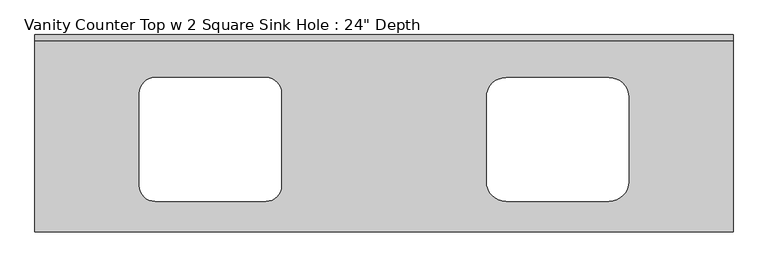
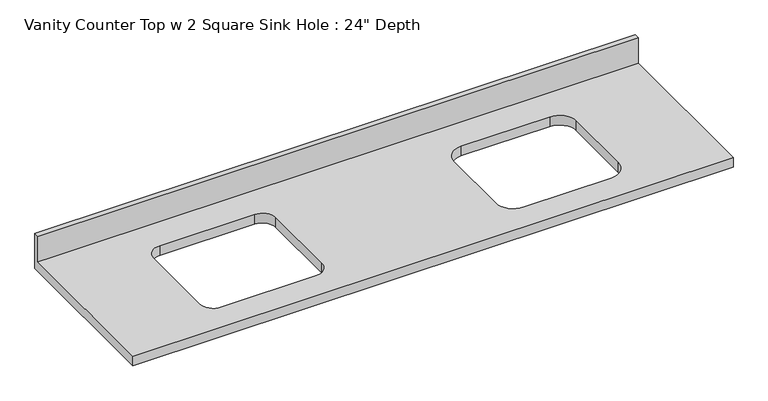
"""IFC4 building model written with IfcOpenShell, lengths in millimetres: furniture geometry."""

from ifc_helpers import new_model, si_unit, frame, origin, place, context, project, spatial, polyline, circle_curve, source, transform, mapped, element, save
from ifc_brep_helpers import plane_surface, revolved_surface, advanced_brep


def furniture_1ece5fb7(model_context):
    return source(origin(), model_context, "Body", "AdvancedBrep", [
        advanced_brep(
        [(-1268.7247951, -635.0, 787.4), (979.1752049, -635.0, 787.4), (979.1752049, -19.05, 787.4), (-1268.7247951, -19.05, 787.4), (-932.1747951, -188.4433832, 787.4), (-881.3747951, -137.6433832, 787.4), (-525.7747951, -137.6433832, 787.4), (-474.9747951, -188.4433832, 787.4), (-474.9747951, -486.4013937, 787.4), (-525.7747951, -537.2013937, 787.4), (-881.3747951, -537.2013937, 787.4), (-932.1747951, -486.4013937, 787.4), (248.9252049, -137.6433832, 787.4), (579.1252049, -137.6433832, 787.4), (642.6252049, -201.1433832, 787.4), (642.6252049, -473.7013937, 787.4), (579.1252049, -537.2013937, 787.4), (248.9252049, -537.2013937, 787.4), (185.4252049, -473.7013937, 787.4), (185.4252049, -201.1433832, 787.4), (979.1752049, 0.0, 749.3), (979.1752049, -635.0, 749.3), (-1268.7247951, -635.0, 749.3), (-1268.7247951, 0.0, 749.3), (-881.3747951, -137.6433832, 749.3), (-932.1747951, -188.4433832, 749.3), (-932.1747951, -486.4013937, 749.3), (-881.3747951, -537.2013937, 749.3), (-525.7747951, -537.2013937, 749.3), (-474.9747951, -486.4013937, 749.3), (-474.9747951, -188.4433832, 749.3), (-525.7747951, -137.6433832, 749.3), (579.1252049, -137.6433832, 749.3), (248.9252049, -137.6433832, 749.3), (185.4252049, -201.1433832, 749.3), (185.4252049, -473.7013937, 749.3), (248.9252049, -537.2013937, 749.3), (579.1252049, -537.2013937, 749.3), (642.6252049, -473.7013937, 749.3), (642.6252049, -201.1433832, 749.3), (-1268.7247951, 0.0, 889.0), (979.1752049, 0.0, 889.0), (-1268.7247951, -19.05, 889.0), (979.1752049, -19.05, 889.0)],
        [
            (0, 1),
            (1, 2),
            (2, 3),
            (3, 0),
            (4, 5, circle_curve(frame((-881.3747951, -188.4433832, 787.4), z_axis=(0.0, 0.0, -1.0), x_axis=(1.0, 0.0, 0.0)), 50.8)),
            (5, 6),
            (6, 7, circle_curve(frame((-525.7747951, -188.4433832, 787.4), z_axis=(0.0, 0.0, -1.0), x_axis=(1.0, 0.0, 0.0)), 50.8)),
            (7, 8),
            (8, 9, circle_curve(frame((-525.7747951, -486.4013937, 787.4), z_axis=(0.0, 0.0, -1.0), x_axis=(1.0, 0.0, 0.0)), 50.8)),
            (9, 10),
            (10, 11, circle_curve(frame((-881.3747951, -486.4013937, 787.4), z_axis=(0.0, 0.0, -1.0), x_axis=(1.0, 0.0, 0.0)), 50.8)),
            (11, 4),
            (12, 13),
            (13, 14, circle_curve(frame((579.1252049, -201.1433832, 787.4), z_axis=(0.0, 0.0, -1.0), x_axis=(1.0, 0.0, 0.0)), 63.5)),
            (14, 15),
            (15, 16, circle_curve(frame((579.1252049, -473.7013937, 787.4), z_axis=(0.0, 0.0, -1.0), x_axis=(1.0, 0.0, 0.0)), 63.5)),
            (16, 17),
            (17, 18, circle_curve(frame((248.9252049, -473.7013937, 787.4), z_axis=(0.0, 0.0, -1.0), x_axis=(1.0, 0.0, 0.0)), 63.5)),
            (18, 19),
            (19, 12, circle_curve(frame((248.9252049, -201.1433832, 787.4), z_axis=(0.0, 0.0, -1.0), x_axis=(1.0, 0.0, 0.0)), 63.5)),
            (20, 21),
            (21, 22),
            (22, 23),
            (23, 20),
            (24, 25, circle_curve(frame((-881.3747951, -188.4433832, 749.3), z_axis=(0.0, 0.0, 1.0), x_axis=(1.0, 0.0, 0.0)), 50.8)),
            (25, 26),
            (26, 27, circle_curve(frame((-881.3747951, -486.4013937, 749.3), z_axis=(0.0, 0.0, 1.0), x_axis=(1.0, 0.0, 0.0)), 50.8)),
            (27, 28),
            (28, 29, circle_curve(frame((-525.7747951, -486.4013937, 749.3), z_axis=(0.0, 0.0, 1.0), x_axis=(1.0, 0.0, 0.0)), 50.8)),
            (29, 30),
            (30, 31, circle_curve(frame((-525.7747951, -188.4433832, 749.3), z_axis=(0.0, 0.0, 1.0), x_axis=(1.0, 0.0, 0.0)), 50.8)),
            (31, 24),
            (32, 33),
            (33, 34, circle_curve(frame((248.9252049, -201.1433832, 749.3), z_axis=(0.0, 0.0, 1.0), x_axis=(1.0, 0.0, 0.0)), 63.5)),
            (34, 35),
            (35, 36, circle_curve(frame((248.9252049, -473.7013937, 749.3), z_axis=(0.0, 0.0, 1.0), x_axis=(1.0, 0.0, 0.0)), 63.5)),
            (36, 37),
            (37, 38, circle_curve(frame((579.1252049, -473.7013937, 749.3), z_axis=(0.0, 0.0, 1.0), x_axis=(1.0, 0.0, 0.0)), 63.5)),
            (38, 39),
            (39, 32, circle_curve(frame((579.1252049, -201.1433832, 749.3), z_axis=(0.0, 0.0, 1.0), x_axis=(1.0, 0.0, 0.0)), 63.5)),
            (23, 40),
            (40, 41),
            (41, 20),
            (22, 0),
            (3, 42),
            (42, 40),
            (21, 1),
            (41, 43),
            (43, 2),
            (42, 43),
            (4, 25),
            (24, 5),
            (11, 26),
            (10, 27),
            (9, 28),
            (8, 29),
            (7, 30),
            (6, 31),
            (12, 33),
            (32, 13),
            (19, 34),
            (18, 35),
            (17, 36),
            (16, 37),
            (15, 38),
            (14, 39),
        ],
        [
            plane_surface(frame((-1268.7247951, 0.0, 787.4), z_axis=(0.0, 0.0, 1.0), x_axis=(-1.0, 0.0, 0.0))),
            plane_surface(frame((-1268.7247951, 0.0, 749.3), z_axis=(0.0, 0.0, -1.0), x_axis=(1.0, 0.0, 0.0))),
            plane_surface(frame((979.1752049, 0.0, 787.4), z_axis=(0.0, 1.0, 0.0), x_axis=(0.0, 0.0, -1.0))),
            plane_surface(frame((-1268.7247951, 0.0, 787.4), z_axis=(-1.0, 0.0, 0.0), x_axis=(0.0, 0.0, -1.0))),
            plane_surface(frame((-1268.7247951, -635.0, 787.4), z_axis=(0.0, -1.0, 0.0), x_axis=(0.0, 0.0, -1.0))),
            plane_surface(frame((979.1752049, -635.0, 787.4), z_axis=(1.0, 0.0, 0.0), x_axis=(0.0, 0.0, -1.0))),
            plane_surface(frame((-1268.7247951, 0.0, 889.0), z_axis=(0.0, 0.0, 1.0), x_axis=(0.0, -1.0, 0.0))),
            plane_surface(frame((-1268.7247951, -19.05, 889.0), z_axis=(0.0, -1.0, 0.0), x_axis=(0.0, 0.0, -1.0))),
            revolved_surface(polyline([(-830.5747951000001, -188.4433832, 787.4), (-830.5747951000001, -188.4433832, 749.3)]), (-881.3747951, -188.4433832, 749.3), (0.0, 0.0, 1.0)),
            plane_surface(frame((-932.1747951, -188.4433832, 787.4), z_axis=(1.0, 0.0, 0.0), x_axis=(0.0, 0.0, -1.0))),
            revolved_surface(polyline([(-830.5747951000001, -486.4013937, 787.4), (-830.5747951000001, -486.4013937, 749.3)]), (-881.3747951, -486.4013937, 749.3), (0.0, 0.0, 1.0)),
            plane_surface(frame((-881.3747951, -537.2013937, 787.4), z_axis=(0.0, 1.0, 0.0), x_axis=(0.0, 0.0, -1.0))),
            revolved_surface(polyline([(-474.9747951, -486.4013937, 787.4), (-474.9747951, -486.4013937, 749.3)]), (-525.7747951, -486.4013937, 749.3), (0.0, 0.0, 1.0)),
            plane_surface(frame((-474.9747951, -486.4013937, 787.4), z_axis=(-1.0, 0.0, 0.0), x_axis=(0.0, 0.0, -1.0))),
            revolved_surface(polyline([(-474.9747951, -188.4433832, 787.4), (-474.9747951, -188.4433832, 749.3)]), (-525.7747951, -188.4433832, 749.3), (0.0, 0.0, 1.0)),
            plane_surface(frame((-525.7747951, -137.6433832, 787.4), z_axis=(0.0, -1.0, 0.0), x_axis=(0.0, 0.0, -1.0))),
            plane_surface(frame((579.1252049, -137.6433832, 787.4), z_axis=(0.0, -1.0, 0.0), x_axis=(0.0, 0.0, -1.0))),
            revolved_surface(polyline([(312.42520490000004, -201.1433832, 787.4), (312.42520490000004, -201.1433832, 749.3)]), (248.9252049, -201.1433832, 749.3), (0.0, 0.0, 1.0)),
            plane_surface(frame((185.4252049, -201.1433832, 787.4), z_axis=(1.0, 0.0, 0.0), x_axis=(0.0, 0.0, -1.0))),
            revolved_surface(polyline([(312.42520490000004, -473.7013937, 787.4), (312.42520490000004, -473.7013937, 749.3)]), (248.9252049, -473.7013937, 749.3), (0.0, 0.0, 1.0)),
            plane_surface(frame((248.9252049, -537.2013937, 787.4), z_axis=(0.0, 1.0, 0.0), x_axis=(0.0, 0.0, -1.0))),
            revolved_surface(polyline([(642.6252049, -473.7013937, 787.4), (642.6252049, -473.7013937, 749.3)]), (579.1252049, -473.7013937, 749.3), (0.0, 0.0, 1.0)),
            plane_surface(frame((642.6252049, -473.7013937, 787.4), z_axis=(-1.0, 0.0, 0.0), x_axis=(0.0, 0.0, -1.0))),
            revolved_surface(polyline([(642.6252049, -201.1433832, 787.4), (642.6252049, -201.1433832, 749.3)]), (579.1252049, -201.1433832, 749.3), (0.0, 0.0, 1.0)),
        ],
        [
            (0, [[1, 2, 3, 4], [5, 6, 7, 8, 9, 10, 11, 12], [13, 14, 15, 16, 17, 18, 19, 20]]),
            (1, [[21, 22, 23, 24], [25, 26, 27, 28, 29, 30, 31, 32], [33, 34, 35, 36, 37, 38, 39, 40]]),
            (2, [[-24, 41, 42, 43]]),
            (3, [[-23, 44, -4, 45, 46, -41]]),
            (4, [[-1, -44, -22, 47]]),
            (5, [[-21, -43, 48, 49, -2, -47]]),
            (6, [[-46, 50, -48, -42]]),
            (7, [[-50, -45, -3, -49]]),
            (8, [[51, -25, 52, -5]]),
            (9, [[-51, -12, 53, -26]]),
            (10, [[-53, -11, 54, -27]]),
            (11, [[-54, -10, 55, -28]]),
            (12, [[-55, -9, 56, -29]]),
            (13, [[-56, -8, 57, -30]]),
            (14, [[-57, -7, 58, -31]]),
            (15, [[-52, -32, -58, -6]]),
            (16, [[59, -33, 60, -13]]),
            (17, [[-59, -20, 61, -34]]),
            (18, [[-61, -19, 62, -35]]),
            (19, [[-62, -18, 63, -36]]),
            (20, [[-63, -17, 64, -37]]),
            (21, [[-64, -16, 65, -38]]),
            (22, [[-65, -15, 66, -39]]),
            (23, [[-60, -40, -66, -14]]),
        ],
    ),
    ])


if __name__ == "__main__":
    model = new_model("IFC4")
    model_context = context("Model", 3, world=origin())
    ifc_project = project(units=[si_unit("LENGTHUNIT", "METRE", prefix="MILLI")], contexts=[model_context])
    site = spatial("IfcSite", under=ifc_project)
    building = spatial("IfcBuilding", under=site)
    placement = place(None, origin())
    furniture_shape = furniture_1ece5fb7(model_context)
    element("IfcFurniture", 1, ObjectType="Vanity Counter Top w 2 Square Sink Hole : 24\" Depth", at=placement, inside=building, context=model_context, shape_type="MappedRepresentation", body=[
        mapped(furniture_shape, transform((0.0, 0.0, 0.0), x_axis=(1.0, 0.0, 0.0), y_axis=(0.0, 1.0, 0.0), z_axis=(0.0, 0.0, 1.0))),
    ])
    save(model, "model.ifc")
